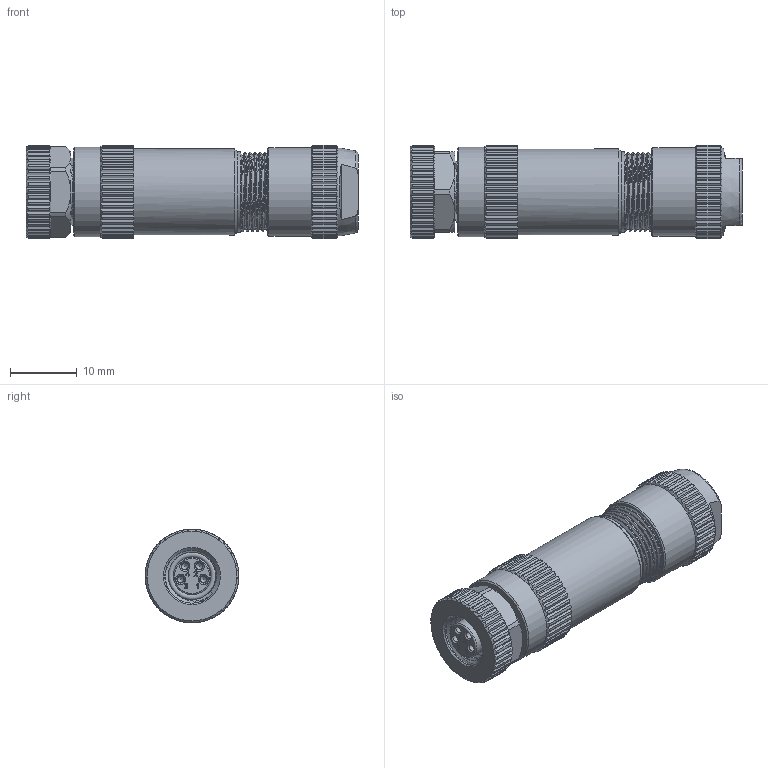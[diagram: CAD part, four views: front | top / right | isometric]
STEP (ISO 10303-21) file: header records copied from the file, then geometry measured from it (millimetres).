
FILE_DESCRIPTION(/* description */ (''),/* implementation_level */ '2;1');
FILE_NAME(/* name */ 'M8-S4A-GLAP7.stp',/* time_stamp */ '2023-12-28T17:26:04+08:00',/* author */ (''),/* organization */ (''),/* preprocessor_version */ 'ST-DEVELOPER v16.7',/* originating_system */ 'SIEMENS PLM Software NX 1847',/* authorisation */ '');
FILE_SCHEMA (('AUTOMOTIVE_DESIGN { 1 0 10303 214 3 1 1 1 }'));
Length unit declared in the file: millimetre
Products named in the file (23): M8 金属组装式主体内衬套; 屏蔽环防水O型圈 ∅9
×∅7×1; M8 金属组装式屏蔽环; M8 金属组装式主体; M12 塑料组装式防水硅胶塞 PG7
规格; M8 金属组装式紧锁螺母; M12 塑料组装式锁线尾爪 PG7规格; 防水密封O型圈 ∅7×
∅5.4×0.8_199691ID; M8 锁线螺钉_199681ID; T-208 M8 塑料组装式马蹄针母针 
3~5芯_199685ID; M8 金属组装式波形垫片_stp_2035
81ID; M8 金属组装式主体连接螺帽_
199682ID; M8 金属组装式带六角连接螺帽_
199686ID; 防水O型圈∅12×∅9
×1.5_199687ID; M8 锁线螺钉_203582ID; M8 锁线螺钉_199683ID; M8 锁线螺钉_199690ID; M8 金属组装式母胶芯 4芯_
199680ID; T-208 M8 塑料组装式马蹄针母针 
3~5芯_199684ID; T-208 M8 塑料组装式马蹄针母针 
3~5芯_203583ID; T-208 M8 塑料组装式马蹄针母针 
3~5芯_199689ID; M8 金属组装式尾部套件半成品; M8-S4A-GLAP7
Assembly tree (22 placements, depth 3):
  M8-S4A-GLAP7
    T-208 M8 塑料组装式马蹄针母针 
3~5芯_199689ID
    T-208 M8 塑料组装式马蹄针母针 
3~5芯_203583ID
    T-208 M8 塑料组装式马蹄针母针 
3~5芯_199684ID
    M8 金属组装式母胶芯 4芯_
199680ID
    M8 锁线螺钉_199690ID
    M8 锁线螺钉_199683ID
    M8 锁线螺钉_203582ID
    M8 金属组装式尾部套件半成品
      M12 塑料组装式锁线尾爪 PG7规格
      M8 金属组装式紧锁螺母
      M12 塑料组装式防水硅胶塞 PG7
规格
      M8 金属组装式主体
      M8 金属组装式屏蔽环
      屏蔽环防水O型圈 ∅9
×∅7×1
      M8 金属组装式主体内衬套
    防水O型圈∅12×∅9
×1.5_199687ID
    M8 金属组装式带六角连接螺帽_
199686ID
    M8 金属组装式主体连接螺帽_
199682ID
    M8 金属组装式波形垫片_stp_2035
81ID
    T-208 M8 塑料组装式马蹄针母针 
3~5芯_199685ID
    M8 锁线螺钉_199681ID
    防水密封O型圈 ∅7×
∅5.4×0.8_199691ID
Bounding box: 49.6 x 14 x 14 mm (x, y, z)
Volume: 5410.5 mm3; surface area: 5216 mm2
Topology: 2 solids, 3 shells, 735 faces, 2015 edges, 1298 vertices
Faces by surface type: plane 378, cylinder 205, cone 86, bspline 29, extrusion 25, torus 12
Full cylindrical faces by diameter (mm): 1.006 x4, 1.1 x4, 1.6 x4, 5.6 x2, 6 x1, 6.9 x1, 7.2 x2, 7.5 x1, 7.8 x1, 8.1 x4, 10.5 x1, 10.9 x2, 11.4 x11, 11.7 x1, 12 x1, 12.85 x5, 13.05 x5, 13.2 x1, 13.4 x1
Entity records: 35981 total; most frequent: CARTESIAN_POINT 19090, ORIENTED_EDGE 3680, DIRECTION 3038, EDGE_CURVE 1840, VERTEX_POINT 1215, AXIS2_PLACEMENT_3D 1157, EDGE_LOOP 794, VECTOR 724
